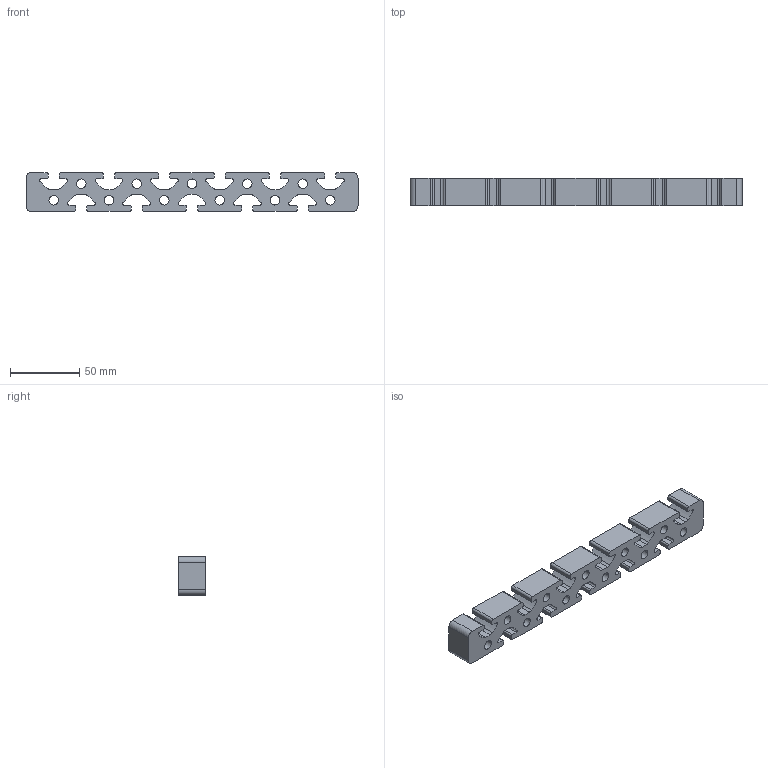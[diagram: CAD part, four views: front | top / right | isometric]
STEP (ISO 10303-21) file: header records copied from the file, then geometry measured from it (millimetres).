
FILE_DESCRIPTION(('STEP AP214'),'1');
FILE_NAME('cctmp_EC5525BB-443E-4165-817C-EC057038E048_2023_04_25_14_46_36_0020_18056..stp','2023-04-25T12:46:36',('item Industrietechnik GmbH'),('CADClick - www.CADClick.com'),'Spatial InterOp 3D',' ','unknown authorization');
FILE_SCHEMA(('AUTOMOTIVE_DESIGN'));
Length unit declared in the file: millimetre
Products named in the file (2): item_0047388_Profile 8 240x28_L=20; item_0047388_Profile 8 240x28_L=20_1
Assembly tree (1 placements, depth 2):
  item_0047388_Profile 8 240x28_L=20
    item_0047388_Profile 8 240x28_L=20_1
Bounding box: 240 x 20 x 28 mm (x, y, z)
Volume: 91976.8 mm3; surface area: 32794 mm2
Topology: 1 solids, 1 shells, 208 faces, 618 edges, 412 vertices
Faces by surface type: cylinder 136, plane 72
Entity records: 8853 total; most frequent: DIRECTION 1310, CARTESIAN_POINT 1240, ORIENTED_EDGE 1236, EDGE_CURVE 618, AXIS2_PLACEMENT_3D 482, VERTEX_POINT 412, LINE 346, VECTOR 346
